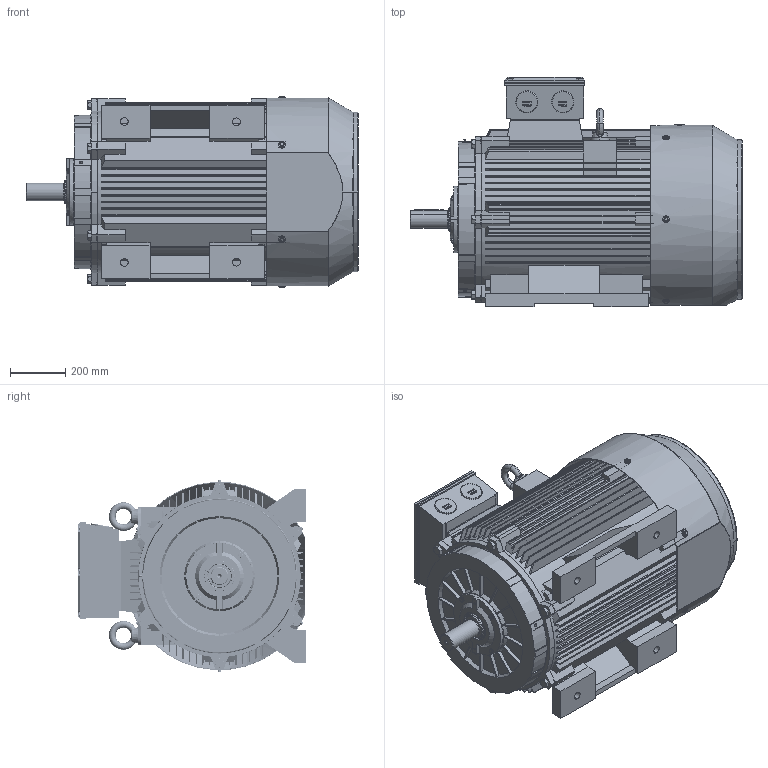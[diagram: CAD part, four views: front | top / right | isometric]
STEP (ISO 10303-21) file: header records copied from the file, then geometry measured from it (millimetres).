
FILE_DESCRIPTION (( 'STEP AP214' ), '1' );
FILE_NAME ('BCT4110.31A203.11.step', '2020-04-23T13:58:54', ( '' ), ( '' ), 'SwSTEP 2.0', 'SolidWorks 2019', '' );
FILE_SCHEMA (( 'AUTOMOTIVE_DESIGN' ));
Length unit declared in the file: millimetre
Products named in the file (1): BCT4110.31A203.11
Bounding box: 1201.99 x 829 x 694.6 mm (x, y, z)
Volume: 56296824.3 mm3; surface area: 11017956.1 mm2
Topology: 44 solids, 44 shells, 7846 faces, 22239 edges, 14633 vertices
Faces by surface type: plane 4032, cylinder 3049, cone 446, torus 206, bspline 109, sphere 4
Entity records: 286079 total; most frequent: CARTESIAN_POINT 77282, ORIENTED_EDGE 44458, DIRECTION 42713, EDGE_CURVE 22229, AXIS2_PLACEMENT_3D 14676, VERTEX_POINT 14631, VECTOR 13361, LINE 13361
